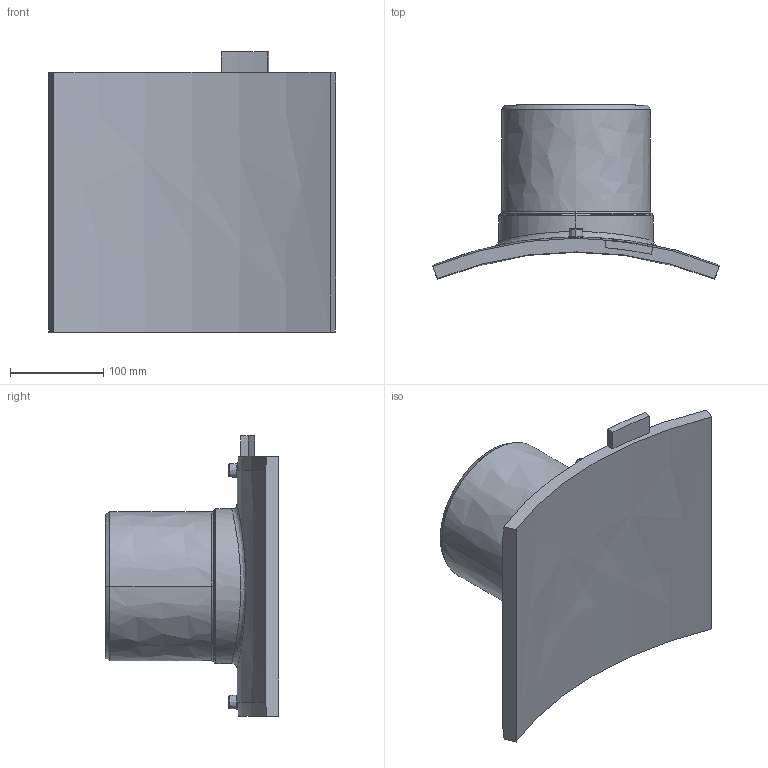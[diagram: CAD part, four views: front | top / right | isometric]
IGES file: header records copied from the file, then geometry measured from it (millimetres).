
Start section:  PTC IGES file: sa-uni_d800_160_01.igs
Global section: file name: sa-uni_d800_160_01.igs; native system: Pro/ENGINEER by Parametric Technology Corporation; preprocessor: 2011490; author: MikulicP; organization: Unknown; date: 20170206.163010; units: millimetre
Bounding box: 308.74 x 186.65 x 301 mm (x, y, z)
Surface area: 334433.1 mm2 (no closed solid volume)
Topology: 0 solids, 0 shells, 202 faces, 994 edges, 992 vertices
Faces by surface type: bspline 202
